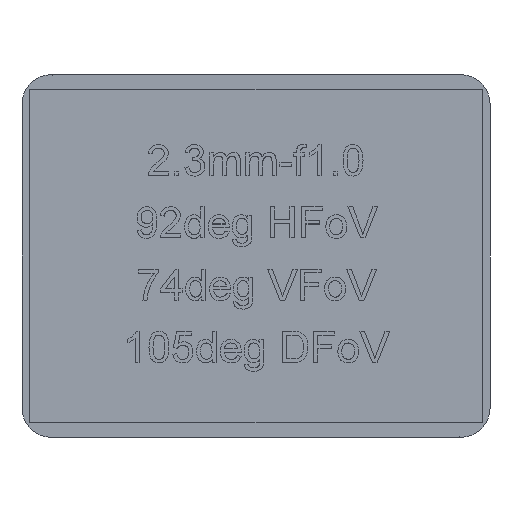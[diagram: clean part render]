
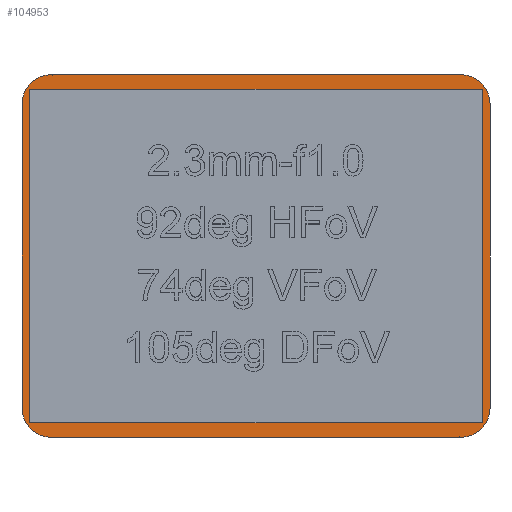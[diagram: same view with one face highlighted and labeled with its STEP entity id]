
A CAD part, top view. The second image highlights one B-rep face of the part: STEP entity #104953.
In plain terms, the highlighted planar face has unit normal (0, 0, 1).
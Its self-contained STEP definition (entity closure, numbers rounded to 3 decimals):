
#6856 = ORIENTED_EDGE ( 'NONE', *, *, #19247, .T. ) ;
#7180 = VECTOR ( 'NONE', #78430, 1000. ) ;
#7814 = EDGE_CURVE ( 'NONE', #59680, #122763, #93728, .T. ) ;
#8027 = CARTESIAN_POINT ( 'NONE',  ( -32.878, 29.107, 47.12 ) ) ;
#10359 = EDGE_CURVE ( 'NONE', #131458, #75802, #68585, .T. ) ;
#12103 = LINE ( 'NONE', #8027, #83703 ) ;
#12656 = DIRECTION ( 'NONE',  ( 0., -1., 0. ) ) ;
#15699 = CARTESIAN_POINT ( 'NONE',  ( -36.316, -26.807, 47.12 ) ) ;
#19247 = EDGE_CURVE ( 'NONE', #144365, #135963, #55752, .T. ) ;
#22473 = CARTESIAN_POINT ( 'NONE',  ( 37.566, 24.418, 47.12 ) ) ;
#24628 = CARTESIAN_POINT ( 'NONE',  ( 32.878, 24.418, 47.12 ) ) ;
#25669 = FACE_OUTER_BOUND ( 'NONE', #144824, .T. ) ;
#26791 = DIRECTION ( 'NONE',  ( 1., 0., 0. ) ) ;
#28353 = VERTEX_POINT ( 'NONE', #166548 ) ;
#32650 = ORIENTED_EDGE ( 'NONE', *, *, #51091, .T. ) ;
#35572 = ORIENTED_EDGE ( 'NONE', *, *, #69887, .T. ) ;
#38099 = DIRECTION ( 'NONE',  ( -1., 0., 0. ) ) ;
#40725 = CIRCLE ( 'NONE', #166385, 4.688 ) ;
#45372 = DIRECTION ( 'NONE',  ( 0., -1., 0. ) ) ;
#46965 = ORIENTED_EDGE ( 'NONE', *, *, #67259, .F. ) ;
#48862 = LINE ( 'NONE', #22473, #116238 ) ;
#48871 = EDGE_CURVE ( 'NONE', #133952, #144983, #12103, .T. ) ;
#49415 = CARTESIAN_POINT ( 'NONE',  ( -32.878, 29.107, 47.12 ) ) ;
#51091 = EDGE_CURVE ( 'NONE', #131025, #133952, #130819, .T. ) ;
#52155 = ORIENTED_EDGE ( 'NONE', *, *, #93830, .F. ) ;
#55752 = CIRCLE ( 'NONE', #102168, 4.688 ) ;
#58440 = DIRECTION ( 'NONE',  ( 0., 0., 1. ) ) ;
#59314 = DIRECTION ( 'NONE',  ( 0., 0., -1. ) ) ;
#59680 = VERTEX_POINT ( 'NONE', #112270 ) ;
#60248 = CARTESIAN_POINT ( 'NONE',  ( 37.566, 24.418, 47.12 ) ) ;
#63015 = DIRECTION ( 'NONE',  ( 0., 1., 0. ) ) ;
#64702 = DIRECTION ( 'NONE',  ( 0., 0., 1. ) ) ;
#64868 = CARTESIAN_POINT ( 'NONE',  ( 36.316, 26.807, 47.12 ) ) ;
#66169 = VECTOR ( 'NONE', #73119, 1000. ) ;
#67259 = EDGE_CURVE ( 'NONE', #122763, #106622, #68923, .T. ) ;
#68585 = LINE ( 'NONE', #173780, #140293 ) ;
#68923 = LINE ( 'NONE', #153080, #140630 ) ;
#69357 = ORIENTED_EDGE ( 'NONE', *, *, #138007, .T. ) ;
#69887 = EDGE_CURVE ( 'NONE', #75802, #28353, #40725, .T. ) ;
#70407 = ORIENTED_EDGE ( 'NONE', *, *, #7814, .F. ) ;
#72649 = VERTEX_POINT ( 'NONE', #91069 ) ;
#73119 = DIRECTION ( 'NONE',  ( 1., 0., 0. ) ) ;
#73468 = DIRECTION ( 'NONE',  ( 0., 0., 1. ) ) ;
#75755 = ORIENTED_EDGE ( 'NONE', *, *, #114473, .F. ) ;
#75802 = VERTEX_POINT ( 'NONE', #121941 ) ;
#78430 = DIRECTION ( 'NONE',  ( 0., 1., 0. ) ) ;
#83703 = VECTOR ( 'NONE', #102092, 1000. ) ;
#85872 = PLANE ( 'NONE',  #111613 ) ;
#87464 = DIRECTION ( 'NONE',  ( -1., 0., 0. ) ) ;
#91069 = CARTESIAN_POINT ( 'NONE',  ( 36.316, -26.807, 47.12 ) ) ;
#92129 = CARTESIAN_POINT ( 'NONE',  ( 37.566, -24.418, 47.12 ) ) ;
#93728 = LINE ( 'NONE', #128092, #165341 ) ;
#93830 = EDGE_CURVE ( 'NONE', #106622, #72649, #150219, .T. ) ;
#99295 = EDGE_CURVE ( 'NONE', #135963, #131025, #48862, .T. ) ;
#102092 = DIRECTION ( 'NONE',  ( -1., 0., 0. ) ) ;
#102168 = AXIS2_PLACEMENT_3D ( 'NONE', #139116, #58440, #152710 ) ;
#104953 = ADVANCED_FACE ( 'NONE', ( #25669, #133067 ), #85872, .F. ) ;
#106622 = VERTEX_POINT ( 'NONE', #15699 ) ;
#108435 = CARTESIAN_POINT ( 'NONE',  ( -36.316, 26.807, 47.12 ) ) ;
#110114 = VECTOR ( 'NONE', #26791, 1000. ) ;
#111613 = AXIS2_PLACEMENT_3D ( 'NONE', #140032, #59314, #153570 ) ;
#112270 = CARTESIAN_POINT ( 'NONE',  ( 36.316, 26.807, 47.12 ) ) ;
#114473 = EDGE_CURVE ( 'NONE', #72649, #59680, #150330, .T. ) ;
#115014 = CARTESIAN_POINT ( 'NONE',  ( 32.878, -29.107, 47.12 ) ) ;
#116238 = VECTOR ( 'NONE', #63015, 1000. ) ;
#118415 = ORIENTED_EDGE ( 'NONE', *, *, #99295, .T. ) ;
#118826 = DIRECTION ( 'NONE',  ( 0., 0., 1. ) ) ;
#121941 = CARTESIAN_POINT ( 'NONE',  ( -37.566, -24.418, 47.12 ) ) ;
#122763 = VERTEX_POINT ( 'NONE', #108435 ) ;
#128092 = CARTESIAN_POINT ( 'NONE',  ( -36.316, 26.807, 47.12 ) ) ;
#129049 = CARTESIAN_POINT ( 'NONE',  ( 32.878, -29.107, 47.12 ) ) ;
#129266 = ORIENTED_EDGE ( 'NONE', *, *, #146481, .T. ) ;
#130819 = CIRCLE ( 'NONE', #156246, 4.688 ) ;
#131025 = VERTEX_POINT ( 'NONE', #60248 ) ;
#131458 = VERTEX_POINT ( 'NONE', #155624 ) ;
#133067 = FACE_BOUND ( 'NONE', #134316, .T. ) ;
#133329 = CARTESIAN_POINT ( 'NONE',  ( -36.316, -26.807, 47.12 ) ) ;
#133952 = VERTEX_POINT ( 'NONE', #174230 ) ;
#134198 = ORIENTED_EDGE ( 'NONE', *, *, #10359, .T. ) ;
#134316 = EDGE_LOOP ( 'NONE', ( #46965, #70407, #75755, #52155 ) ) ;
#135963 = VERTEX_POINT ( 'NONE', #92129 ) ;
#138007 = EDGE_CURVE ( 'NONE', #28353, #144365, #169389, .T. ) ;
#139116 = CARTESIAN_POINT ( 'NONE',  ( 32.878, -24.418, 47.12 ) ) ;
#140032 = CARTESIAN_POINT ( 'NONE',  ( 32.878, 24.418, 47.12 ) ) ;
#140293 = VECTOR ( 'NONE', #12656, 1000. ) ;
#140630 = VECTOR ( 'NONE', #45372, 1000. ) ;
#144365 = VERTEX_POINT ( 'NONE', #115014 ) ;
#144824 = EDGE_LOOP ( 'NONE', ( #32650, #159653, #129266, #134198, #35572, #69357, #6856, #118415 ) ) ;
#144983 = VERTEX_POINT ( 'NONE', #49415 ) ;
#145400 = CARTESIAN_POINT ( 'NONE',  ( -32.878, -24.418, 47.12 ) ) ;
#146481 = EDGE_CURVE ( 'NONE', #144983, #131458, #172002, .T. ) ;
#150219 = LINE ( 'NONE', #133329, #110114 ) ;
#150330 = LINE ( 'NONE', #64868, #7180 ) ;
#152710 = DIRECTION ( 'NONE',  ( 1., 0., 0. ) ) ;
#153080 = CARTESIAN_POINT ( 'NONE',  ( -36.316, 26.807, 47.12 ) ) ;
#153570 = DIRECTION ( 'NONE',  ( -1., 0., 0. ) ) ;
#154165 = CARTESIAN_POINT ( 'NONE',  ( -32.878, 24.418, 47.12 ) ) ;
#155624 = CARTESIAN_POINT ( 'NONE',  ( -37.566, 24.418, 47.12 ) ) ;
#156246 = AXIS2_PLACEMENT_3D ( 'NONE', #24628, #118826, #38099 ) ;
#158904 = DIRECTION ( 'NONE',  ( 1., 0., 0. ) ) ;
#159653 = ORIENTED_EDGE ( 'NONE', *, *, #48871, .T. ) ;
#163792 = AXIS2_PLACEMENT_3D ( 'NONE', #154165, #73468, #167629 ) ;
#165341 = VECTOR ( 'NONE', #87464, 1000. ) ;
#166385 = AXIS2_PLACEMENT_3D ( 'NONE', #145400, #64702, #158904 ) ;
#166548 = CARTESIAN_POINT ( 'NONE',  ( -32.878, -29.107, 47.12 ) ) ;
#167629 = DIRECTION ( 'NONE',  ( -1., 0., 0. ) ) ;
#169389 = LINE ( 'NONE', #129049, #66169 ) ;
#172002 = CIRCLE ( 'NONE', #163792, 4.688 ) ;
#173780 = CARTESIAN_POINT ( 'NONE',  ( -37.566, -24.418, 47.12 ) ) ;
#174230 = CARTESIAN_POINT ( 'NONE',  ( 32.878, 29.107, 47.12 ) ) ;
